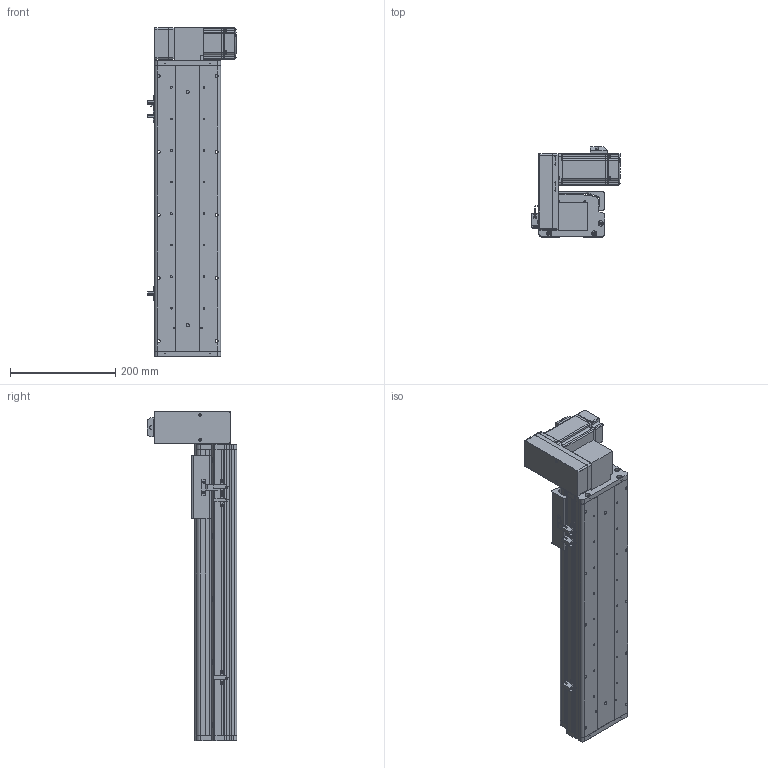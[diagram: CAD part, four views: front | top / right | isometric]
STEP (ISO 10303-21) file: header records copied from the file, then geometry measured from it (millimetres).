
FILE_DESCRIPTION (( 'STEP AP214' ), '1' );
FILE_NAME ('KSD125B-S350-MRU-CM.STEP', '2017-10-21T07:23:06', ( '微软用户' ), ( '微软中国' ), 'SwSTEP 2.0', 'SolidWorks 2014', '' );
FILE_SCHEMA (( 'AUTOMOTIVE_DESIGN' ));
Length unit declared in the file: millimetre
Products named in the file (17): KSD125模组同步带-防撞垫2; 覜茼え68遵圉猾敕; U倰嫖萇假蚾璃; U倰嫖萇EEㄜSX672; KSD125模组同步带-防撞垫1; 100宽马达安装板同步带右; 前端板-125宽模组同步带; 125模组同步带-尾端板1; KSD125模组同步带-滑动座1; KSD125B-S350-MRU-CM; 悵誘欶奻狟殏; HTPA30S3M150_A_H6_a佪裝蚚; HTPA30S3M150_A_H6_a萇儂蚚; 100宽马达安装板连板上下折丝杆同步带; KSD125模组350行程同步带-防尘盖; 125模组350行程同步带-底板; MHMD042G1CA_2_03
Assembly tree (20 placements, depth 2):
  KSD125B-S350-MRU-CM
    KSD125模组同步带-滑动座1
    125模组同步带-尾端板1
    前端板-125宽模组同步带
    100宽马达安装板同步带右
    KSD125模组同步带-防撞垫1
    U倰嫖萇EEㄜSX672  x3
    U倰嫖萇假蚾璃  x3
    覜茼え68遵圉猾敕
    KSD125模组同步带-防撞垫2
    MHMD042G1CA_2_03
    125模组350行程同步带-底板
    KSD125模组350行程同步带-防尘盖
    100宽马达安装板连板上下折丝杆同步带
    HTPA30S3M150_A_H6_a萇儂蚚
    HTPA30S3M150_A_H6_a佪裝蚚
    悵誘欶奻狟殏
Bounding box: 168.7 x 170.5 x 627 mm (x, y, z)
Volume: 2191094.7 mm3; surface area: 773636.4 mm2
Topology: 19 solids, 22 shells, 2217 faces, 6415 edges, 4238 vertices
Faces by surface type: cylinder 1372, plane 718, cone 105, bspline 22
Entity records: 78401 total; most frequent: CARTESIAN_POINT 15525, DIRECTION 12200, ORIENTED_EDGE 11350, EDGE_CURVE 5753, AXIS2_PLACEMENT_3D 4701, VERTEX_POINT 3830, VECTOR 2798, LINE 2798
